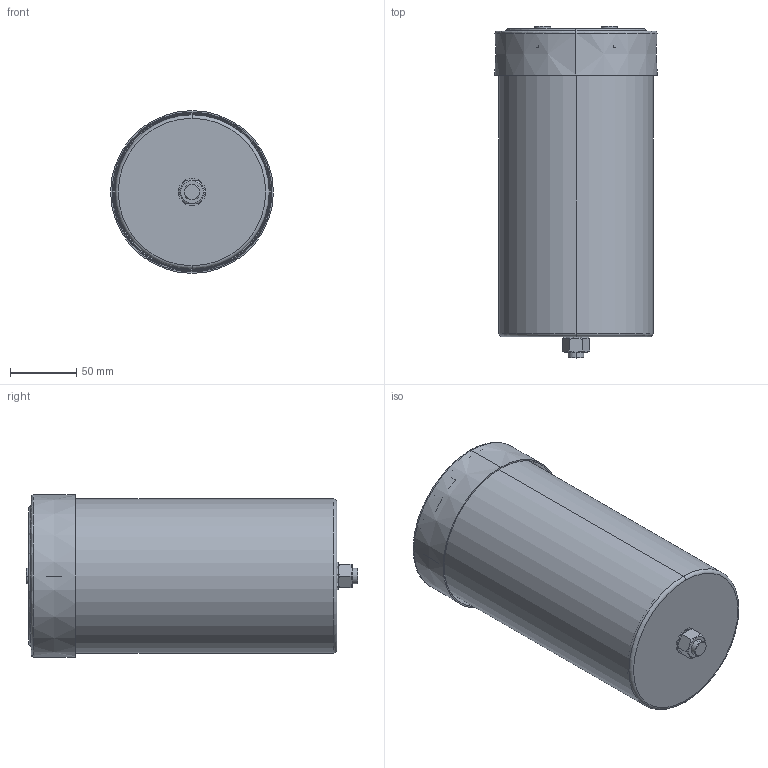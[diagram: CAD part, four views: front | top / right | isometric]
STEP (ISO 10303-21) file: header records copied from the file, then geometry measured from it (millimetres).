
FILE_DESCRIPTION (( 'STEP AP203' ), '1' );
FILE_NAME ('B25680Cx_116x232_234.STEP', '2021-09-30T03:00:00', ( '' ), ( '' ), 'SwSTEP 2.0', 'SolidWorks 2017', '' );
FILE_SCHEMA (( 'CONFIG_CONTROL_DESIGN' ));
Length unit declared in the file: millimetre
Products named in the file (1): B25680Cx_116x232_234
Bounding box: 122.58 x 250 x 122.58 mm (x, y, z)
Volume: 173520.9 mm3; surface area: 284706.9 mm2
Topology: 1 solids, 7 shells, 577 faces, 1430 edges, 903 vertices
Faces by surface type: plane 209, cylinder 168, bspline 83, cone 75, torus 42
Entity records: 20405 total; most frequent: CARTESIAN_POINT 6993, ORIENTED_EDGE 2834, DIRECTION 2774, EDGE_CURVE 1417, AXIS2_PLACEMENT_3D 1124, VERTEX_POINT 903, EDGE_LOOP 640, CIRCLE 629
